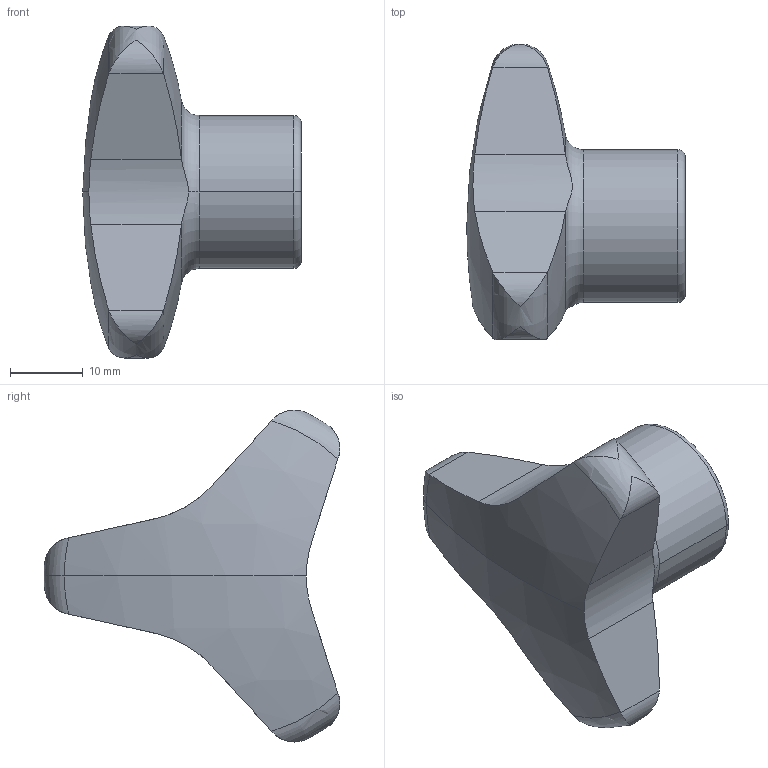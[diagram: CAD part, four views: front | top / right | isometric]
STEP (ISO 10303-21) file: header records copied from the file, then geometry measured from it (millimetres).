
FILE_DESCRIPTION (( 'STEP AP214' ), '1' );
FILE_NAME ('5345-50-M10-E.step', '2019-06-13T08:49:02', ( 'user' ), ( '' ), 'SwSTEP 2.0', 'SolidWorks 2019', '' );
FILE_SCHEMA (( 'AUTOMOTIVE_DESIGN' ));
Length unit declared in the file: millimetre
Products named in the file (1): 5345-50-M10-E
Bounding box: 30 x 40.58 x 45.59 mm (x, y, z)
Volume: 14869.7 mm3; surface area: 4892 mm2
Topology: 1 solids, 1 shells, 40 faces, 109 edges, 71 vertices
Faces by surface type: cylinder 16, torus 8, plane 8, sphere 6, cone 2
Entity records: 1571 total; most frequent: CARTESIAN_POINT 545, ORIENTED_EDGE 214, DIRECTION 195, EDGE_CURVE 107, AXIS2_PLACEMENT_3D 87, VERTEX_POINT 71, CIRCLE 46, EDGE_LOOP 42
